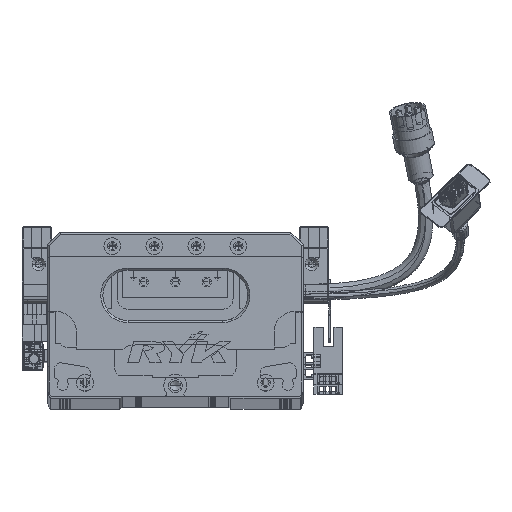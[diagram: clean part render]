
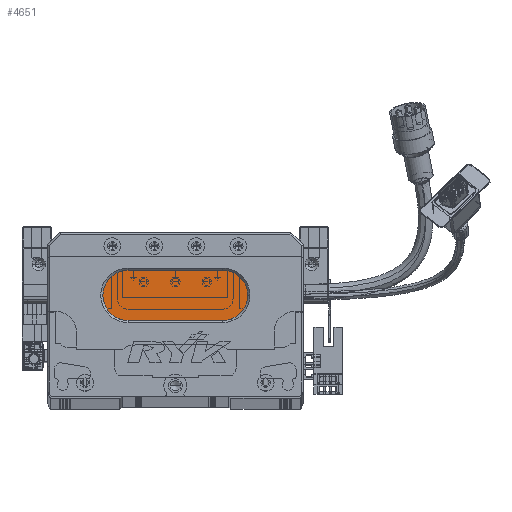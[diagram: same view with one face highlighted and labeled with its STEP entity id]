
A CAD part, top view. The second image highlights one B-rep face of the part: STEP entity #4651.
In plain terms, the highlighted planar face has unit normal (0, 0, 1) as drawn and (0, 0, -1) by its records, which use the part's own axes.
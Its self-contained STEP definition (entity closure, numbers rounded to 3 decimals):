
#4651 = ADVANCED_FACE ( 'NONE', ( #22112 ), #32043, .T. ) ;
#9086 = DIRECTION ( 'NONE',  ( -1., 0., 0. ) ) ;
#9946 = ORIENTED_EDGE ( 'NONE', *, *, #18529, .T. ) ;
#10480 = LINE ( 'NONE', #21418, #102966 ) ;
#13455 = CARTESIAN_POINT ( 'NONE',  ( 38.5, 36., 13. ) ) ;
#18529 = EDGE_CURVE ( 'NONE', #118740, #65040, #118652, .T. ) ;
#18707 = AXIS2_PLACEMENT_3D ( 'NONE', #125322, #64263, #32480 ) ;
#20961 = DIRECTION ( 'NONE',  ( 0., 0., -1. ) ) ;
#21418 = CARTESIAN_POINT ( 'NONE',  ( 83.5, 36., 13. ) ) ;
#22112 = FACE_OUTER_BOUND ( 'NONE', #66628, .T. ) ;
#25916 = EDGE_CURVE ( 'NONE', #65040, #110636, #130937, .T. ) ;
#29375 = EDGE_CURVE ( 'NONE', #110636, #76158, #103248, .T. ) ;
#32043 = PLANE ( 'NONE',  #18707 ) ;
#32480 = DIRECTION ( 'NONE',  ( -1., 0., 0. ) ) ;
#33013 = VERTEX_POINT ( 'NONE', #13455 ) ;
#36209 = AXIS2_PLACEMENT_3D ( 'NONE', #40613, #20961, #102140 ) ;
#39913 = VECTOR ( 'NONE', #56306, 1000. ) ;
#40613 = CARTESIAN_POINT ( 'NONE',  ( 38.5, 48., 13. ) ) ;
#41100 = CIRCLE ( 'NONE', #36209, 12. ) ;
#49720 = CARTESIAN_POINT ( 'NONE',  ( 38.5, 48., 13. ) ) ;
#51422 = DIRECTION ( 'NONE',  ( -1., 0., 0. ) ) ;
#56306 = DIRECTION ( 'NONE',  ( 1., 0., 0. ) ) ;
#64263 = DIRECTION ( 'NONE',  ( 0., 0., -1. ) ) ;
#65040 = VERTEX_POINT ( 'NONE', #88576 ) ;
#66628 = EDGE_LOOP ( 'NONE', ( #129919, #66976, #131014, #9946, #122979 ) ) ;
#66976 = ORIENTED_EDGE ( 'NONE', *, *, #69039, .T. ) ;
#69039 = EDGE_CURVE ( 'NONE', #76158, #33013, #10480, .T. ) ;
#75402 = AXIS2_PLACEMENT_3D ( 'NONE', #49720, #111195, #9086 ) ;
#76158 = VERTEX_POINT ( 'NONE', #123244 ) ;
#80497 = CARTESIAN_POINT ( 'NONE',  ( 83.5, 48., 13. ) ) ;
#88576 = CARTESIAN_POINT ( 'NONE',  ( 38.5, 60., 13. ) ) ;
#92008 = DIRECTION ( 'NONE',  ( 0., 0., -1. ) ) ;
#102140 = DIRECTION ( 'NONE',  ( -1., 0., 0. ) ) ;
#102854 = EDGE_CURVE ( 'NONE', #33013, #118740, #41100, .T. ) ;
#102966 = VECTOR ( 'NONE', #51422, 1000. ) ;
#103248 = CIRCLE ( 'NONE', #112840, 12. ) ;
#107354 = CARTESIAN_POINT ( 'NONE',  ( 83.5, 60., 13. ) ) ;
#110636 = VERTEX_POINT ( 'NONE', #107354 ) ;
#111195 = DIRECTION ( 'NONE',  ( 0., 0., -1. ) ) ;
#112840 = AXIS2_PLACEMENT_3D ( 'NONE', #80497, #92008, #120673 ) ;
#118652 = CIRCLE ( 'NONE', #75402, 12. ) ;
#118740 = VERTEX_POINT ( 'NONE', #127116 ) ;
#120673 = DIRECTION ( 'NONE',  ( -1., 0., 0. ) ) ;
#122979 = ORIENTED_EDGE ( 'NONE', *, *, #25916, .T. ) ;
#123244 = CARTESIAN_POINT ( 'NONE',  ( 83.5, 36., 13. ) ) ;
#125322 = CARTESIAN_POINT ( 'NONE',  ( 83.5, 48., 13. ) ) ;
#127116 = CARTESIAN_POINT ( 'NONE',  ( 26.5, 48., 13. ) ) ;
#127611 = CARTESIAN_POINT ( 'NONE',  ( 83.5, 60., 13. ) ) ;
#129919 = ORIENTED_EDGE ( 'NONE', *, *, #29375, .T. ) ;
#130937 = LINE ( 'NONE', #127611, #39913 ) ;
#131014 = ORIENTED_EDGE ( 'NONE', *, *, #102854, .T. ) ;
